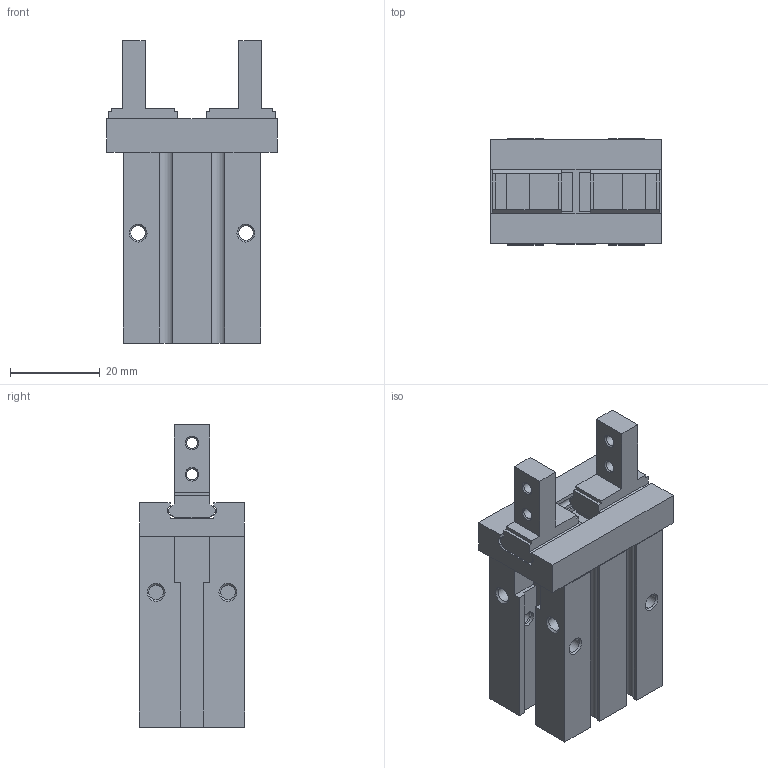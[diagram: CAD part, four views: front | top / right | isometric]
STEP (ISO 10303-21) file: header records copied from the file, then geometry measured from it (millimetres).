
FILE_DESCRIPTION( ( 'STEP AP214' ), '1' );
FILE_NAME( 'F:/CRG-3D-PAN-XU/CRG-chan pin kai fa cun dang - xu/协助/样品整理/平行夹/MHZ2-16S_20.9_0_.stp', '2023-03-07T10:03:49', ( '' ), ( '' ), ' ', 'PARTsolutions', ' ' );
FILE_SCHEMA( ( 'AUTOMOTIVE_DESIGN { 1 0 10303 214 1 1 1 1 }' ) );
Length unit declared in the file: millimetre
Products named in the file (3): MHZ2-16S(20.9_0); _MHZ2-16S_Body(0); _MHZ2-16S_Finger(0)
Assembly tree (3 placements, depth 2):
  MHZ2-16S(20.9_0)
    _MHZ2-16S_Body(0)
    _MHZ2-16S_Finger(0)  x2
Bounding box: 38 x 23.6 x 67.3 mm (x, y, z)
Volume: 31916.2 mm3; surface area: 12801.4 mm2
Topology: 3 solids, 3 shells, 199 faces, 523 edges, 339 vertices
Faces by surface type: plane 149, cylinder 29, cone 21
Full cylindrical faces by diameter (mm): 2.459 x4, 3 x1, 3.242 x8, 3.4 x4, 4.134 x1, 17 x1
Entity records: 6040 total; most frequent: CARTESIAN_POINT 813, DIRECTION 790, ORIENTED_EDGE 762, EDGE_CURVE 381, LINE 302, VECTOR 302, VERTEX_POINT 267, AXIS2_PLACEMENT_3D 244
